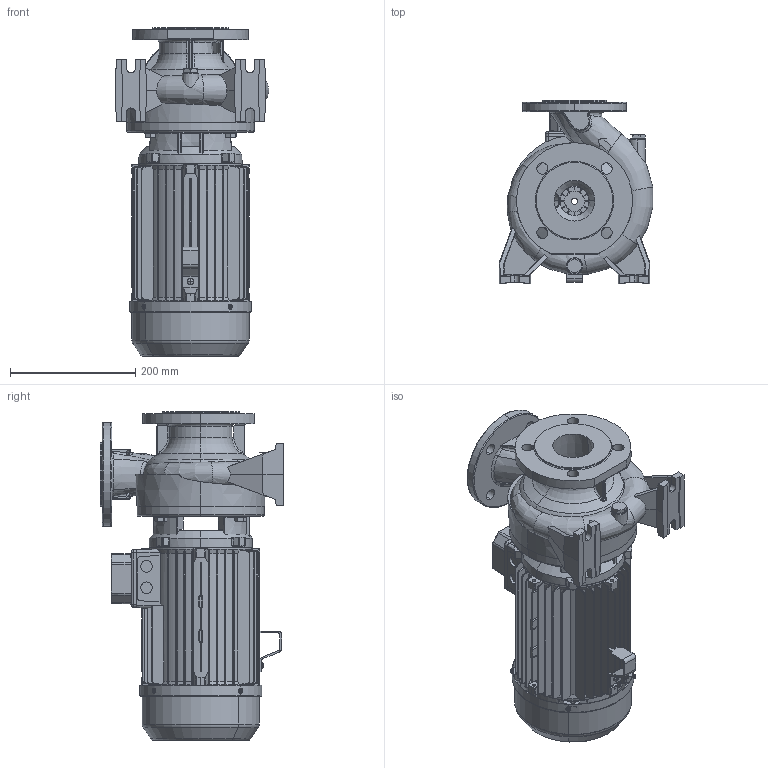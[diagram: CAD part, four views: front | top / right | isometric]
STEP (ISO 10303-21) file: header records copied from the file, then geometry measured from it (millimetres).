
FILE_DESCRIPTION (( 'STEP AP203' ), '1' );
FILE_NAME ('CN 50-125 A Special IE3.STEP', '2017-02-01T13:41:12', ( 'tecnico1' ), ( '' ), 'SwSTEP 2.0', 'SolidWorks 2016', '' );
FILE_SCHEMA (( 'CONFIG_CONTROL_DESIGN' ));
Length unit declared in the file: millimetre
Products named in the file (1): CN 50-125 A Special IE3
Bounding box: 244.77 x 292 x 524 mm (x, y, z)
Surface area: 1048794 mm2 (no closed solid volume)
Topology: 0 solids, 60 shells, 2096 faces, 6988 edges, 4808 vertices
Faces by surface type: plane 818, cylinder 562, bspline 328, torus 184, cone 184, sphere 20
Entity records: 97265 total; most frequent: CARTESIAN_POINT 40669, ORIENTED_EDGE 11218, DIRECTION 11062, EDGE_CURVE 6966, VERTEX_POINT 4808, AXIS2_PLACEMENT_3D 3988, LINE 3086, VECTOR 3086
